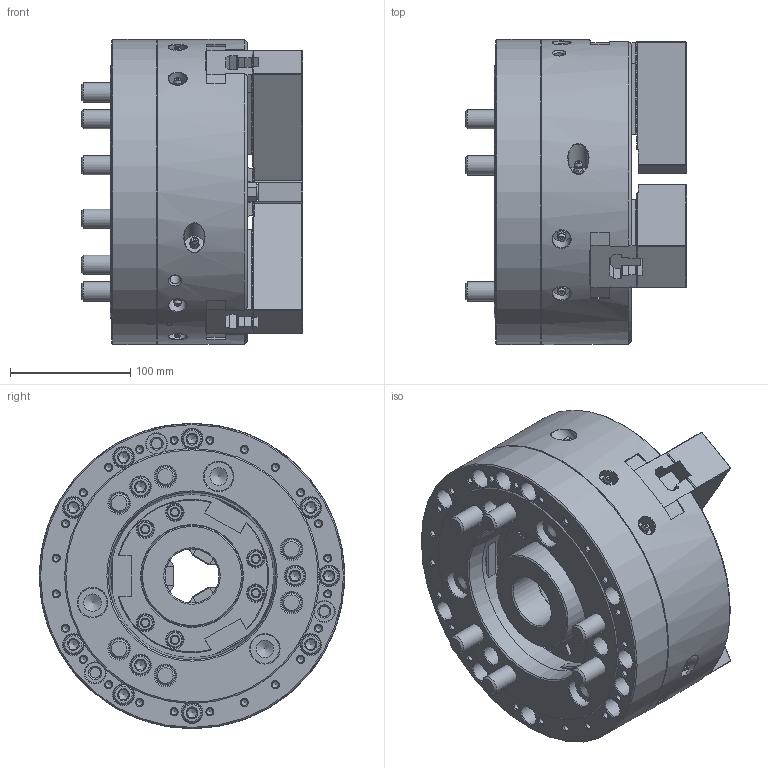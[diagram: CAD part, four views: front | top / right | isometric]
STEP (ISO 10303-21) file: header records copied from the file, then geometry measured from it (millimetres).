
FILE_DESCRIPTION (( 'STEP AP214' ), '1' );
FILE_NAME ('DT1_HOH-10K_OUTSIDE_VIEW_HCL.STEP', '2024-05-09T04:26:49', ( '' ), ( '' ), 'SwSTEP 2.0', 'SolidWorks 2022', '' );
FILE_SCHEMA (( 'AUTOMOTIVE_DESIGN' ));
Length unit declared in the file: millimetre
Products named in the file (9): DT1_HOH-10K_TNUT^DT1_HOH-10K_ﾃﾞﾌｫﾙﾄ; DT1_HOH-10K_M12x35^DT1_HOH-10K_ﾃﾞﾌｫﾙﾄ; DT1_HOH-10K_OUTSIDE_VIEW_HCL; DT1_HOH-10K_SOFTJAW^DT1_HOH-10K_ﾃﾞﾌｫﾙﾄ; DT1_HOH-10K_DRAWNUT^DT1_HOH-10K_ﾃﾞﾌｫﾙﾄ; DT1_HOH-10K_COVER^DT1_HOH-10K_ﾃﾞﾌｫﾙﾄ; DT1_HOH-10K_M6x12^DT1_HOH-10K_ﾃﾞﾌｫﾙﾄ; DT1_HOH-10K_M16x120^DT1_HOH-10K_ﾃﾞﾌｫﾙﾄ; DT1_HOH-10K_BASE^DT1_HOH-10K_ﾃﾞﾌｫﾙﾄ
Assembly tree (24 placements, depth 2):
  DT1_HOH-10K_OUTSIDE_VIEW_HCL
    DT1_HOH-10K_SOFTJAW^DT1_HOH-10K_ﾃﾞﾌｫﾙﾄ  x3
    DT1_HOH-10K_TNUT^DT1_HOH-10K_ﾃﾞﾌｫﾙﾄ  x3
    DT1_HOH-10K_DRAWNUT^DT1_HOH-10K_ﾃﾞﾌｫﾙﾄ
    DT1_HOH-10K_COVER^DT1_HOH-10K_ﾃﾞﾌｫﾙﾄ
    DT1_HOH-10K_BASE^DT1_HOH-10K_ﾃﾞﾌｫﾙﾄ
    DT1_HOH-10K_M6x12^DT1_HOH-10K_ﾃﾞﾌｫﾙﾄ  x3
    DT1_HOH-10K_M12x35^DT1_HOH-10K_ﾃﾞﾌｫﾙﾄ  x6
    DT1_HOH-10K_M16x120^DT1_HOH-10K_ﾃﾞﾌｫﾙﾄ  x6
Bounding box: 184 x 254 x 254 mm (x, y, z)
Volume: 5438010.3 mm3; surface area: 593435.3 mm2
Topology: 24 solids, 30 shells, 4309 faces, 11970 edges, 7855 vertices
Faces by surface type: plane 3164, cylinder 592, cone 374, bspline 131, torus 39, sphere 9
Full cylindrical faces by diameter (mm): 2 x9, 5 x3, 5.2 x24, 6 x3, 6.6 x3, 8.6 x5, 10.2 x6, 10.22 x3, 11 x3, 12 x6, 13 x6, 13.27 x6, 14 x6, 15 x6, 16 x6, 16.27 x12, 17 x30, 18.27 x6, 19 x6, 24.21 x3, 24.33 x6, 25 x6, 45 x1, 65 x2, 70 x2, 76.4 x1, 84.5 x2, 92 x2, 136 x1, 144 x1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
Entity records: 126538 total; most frequent: CARTESIAN_POINT 47606, ORIENTED_EDGE 17182, DIRECTION 14163, EDGE_CURVE 8591, LINE 6181, VECTOR 6181, VERTEX_POINT 5838, AXIS2_PLACEMENT_3D 3991
